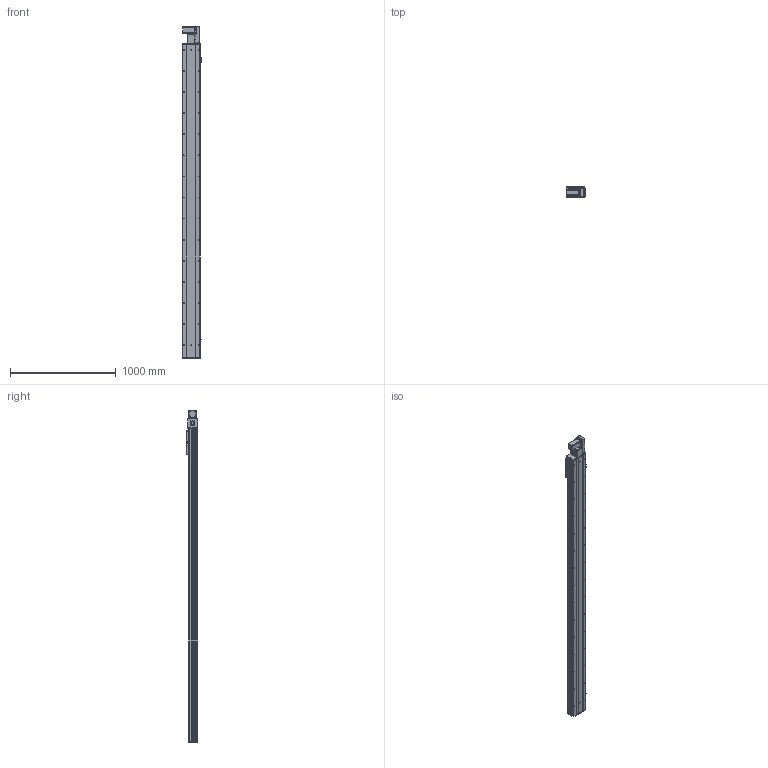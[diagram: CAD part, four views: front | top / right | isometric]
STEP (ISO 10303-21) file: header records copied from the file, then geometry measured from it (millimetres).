
FILE_DESCRIPTION (( 'STEP AP203' ), '1' );
FILE_NAME ('Y170CB-D105-S2650-BR-P400W.STEP', '2020-02-19T09:54:11', ( '微软用户' ), ( '微软中国' ), 'SwSTEP 2.0', 'SolidWorks 2017', '' );
FILE_SCHEMA (( 'CONFIG_CONTROL_DESIGN' ));
Length unit declared in the file: millimetre
Products named in the file (17): 17B-耜蚾蟀諉啣----; 0B-萇儂楊擘啣; san松下电机400不带刹车----; Y70俋欶BR----; 70CB-掛极-; --70CB --喘謫眊楊擘啣-; 70CB-耜裔啣-; 70B喘謫眊----; 70C--詩湍揤踡え-; 70CB--耜裔; B-源倛裔啣; 70C-雄赽釱-奻-; 0C--雄赽釱俋欶-170; 70CB-詩湍--; Y100-135俋离換覜ん--; Y170CB-陔俋离換覜結え---; Y170CB-D105-S2650-BR-P400W
Assembly tree (20 placements, depth 2):
  Y170CB-D105-S2650-BR-P400W
    70B喘謫眊----
    B-源倛裔啣
    17B-耜蚾蟀諉啣----
    0B-萇儂楊擘啣
    san松下电机400不带刹车----
    Y70俋欶BR----
    70CB-掛极-
    --70CB --喘謫眊楊擘啣-
    70CB-耜裔啣-  x2
    70C--詩湍揤踡え-  x2
    70CB--耜裔
    70C-雄赽釱-奻-
    0C--雄赽釱俋欶-170
    70CB-詩湍--
    Y100-135俋离換覜ん--  x3
    Y170CB-陔俋离換覜結え---
Bounding box: 183.5 x 107 x 3147 mm (x, y, z)
Volume: 13029330.4 mm3; surface area: 4699049.9 mm2
Topology: 20 solids, 20 shells, 1057 faces, 2849 edges, 1890 vertices
Faces by surface type: cylinder 571, plane 462, cone 24
Entity records: 33795 total; most frequent: CARTESIAN_POINT 6261, DIRECTION 5500, ORIENTED_EDGE 5180, EDGE_CURVE 2590, AXIS2_PLACEMENT_3D 2025, VERTEX_POINT 1720, VECTOR 1450, LINE 1450
